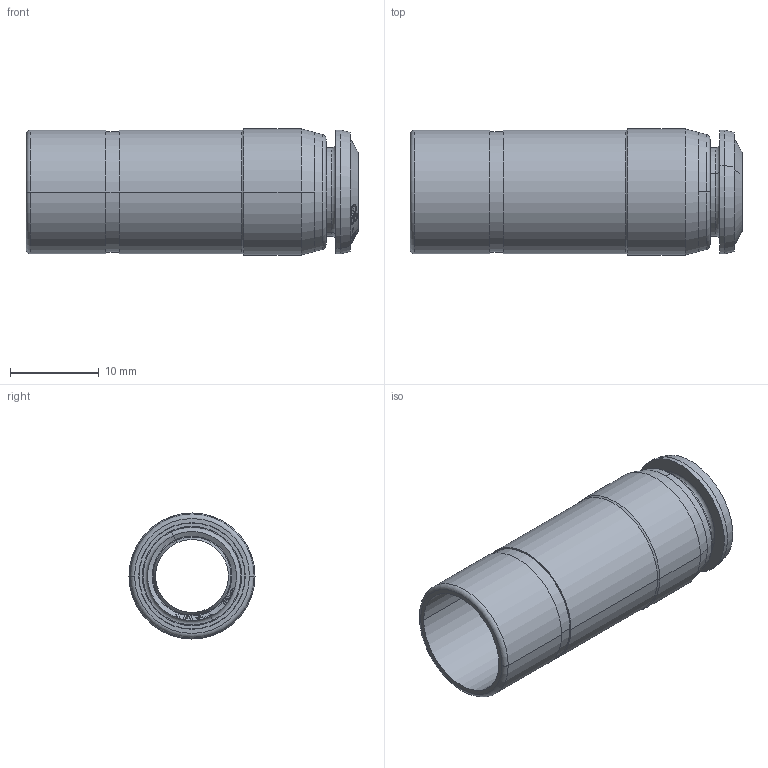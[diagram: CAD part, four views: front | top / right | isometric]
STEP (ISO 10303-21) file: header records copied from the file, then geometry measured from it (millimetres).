
FILE_DESCRIPTION (( 'STEP AP214' ), '1' );
FILE_NAME ('5570000014A.STEP', '2015-05-26T11:16:35', ( '' ), ( '' ), 'SwSTEP 2.0', 'SolidWorks 2013', '' );
FILE_SCHEMA (( 'AUTOMOTIVE_DESIGN' ));
Length unit declared in the file: millimetre
Products named in the file (1): 5570000014A
Bounding box: 37.4 x 14.2 x 14.2 mm (x, y, z)
Surface area: 2782.7 mm2 (no closed solid volume)
Topology: 0 solids, 3 shells, 158 faces, 403 edges, 264 vertices
Faces by surface type: bspline 96, cone 32, cylinder 16, plane 8, torus 6
Entity records: 11720 total; most frequent: CARTESIAN_POINT 6968, ORIENTED_EDGE 790, EDGE_CURVE 403, B_SPLINE_CURVE_WITH_KNOTS 303, DIRECTION 290, VERTEX_POINT 264, EDGE_LOOP 178, UNCERTAINTY_MEASURE_WITH_UNIT 160
